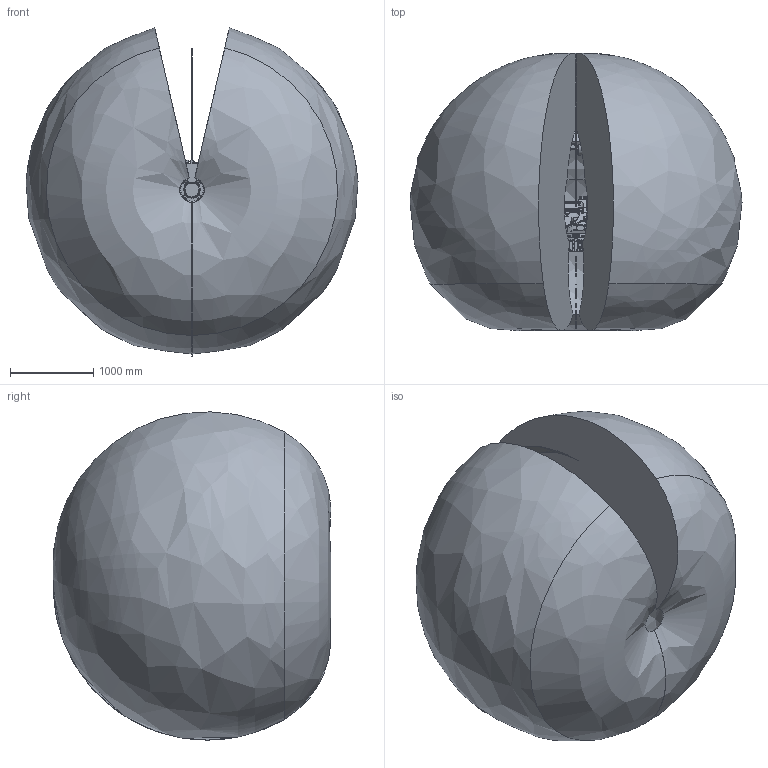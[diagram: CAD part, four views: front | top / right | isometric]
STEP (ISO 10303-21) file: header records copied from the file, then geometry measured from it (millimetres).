
FILE_DESCRIPTION((''),'2;1');
FILE_NAME('R6-3_ASM','2023-10-14T15:34:52',('zty'),(''),'CREO PARAMETRIC BY PTC INC, 2018260','CREO PARAMETRIC BY PTC INC, 2018260','');
FILE_SCHEMA(('CONFIG_CONTROL_DESIGN','SHAPE_APPEARANCE_LAYERS_GROUPS'));
Products named in the file (11): R6-3_BASE; R6-3_JOINT1; R6-3_JOINT2; R6-3_JOINT3; R6-3_JOINT4; R6-3_JOINT5; R6-3_JOINT6; R6-3_CABLE; R6-3_RANGE; R6-3_RANGE_2; R6-3_ASM
Assembly tree (10 placements, depth 2):
  R6-3_ASM
    R6-3_BASE
    R6-3_JOINT1
    R6-3_JOINT2
    R6-3_JOINT3
    R6-3_JOINT4
    R6-3_JOINT5
    R6-3_JOINT6
    R6-3_CABLE
    R6-3_RANGE
    R6-3_RANGE_2
Bounding box: 3995.88 x 3337.53 x 3950.82 mm (x, y, z)
Volume: 27131172534.6 mm3; surface area: 74363479.7 mm2
Topology: 10 solids, 21 shells, 8442 faces, 21048 edges, 12837 vertices
Faces by surface type: cylinder 2930, plane 2074, bspline 1644, torus 1018, cone 660, sphere 115, revolution 1
Entity records: 341311 total; most frequent: CARTESIAN_POINT 146059, ORIENTED_EDGE 41592, DIRECTION 37791, EDGE_CURVE 20796, AXIS2_PLACEMENT_3D 15189, VERTEX_POINT 12833, EDGE_LOOP 9009, FACE_OUTER_BOUND 8442
